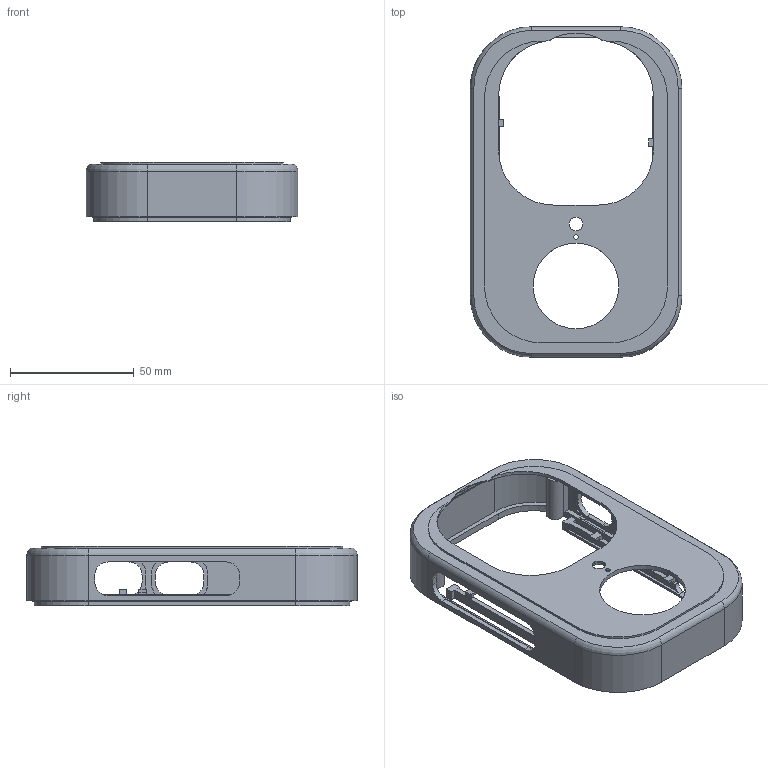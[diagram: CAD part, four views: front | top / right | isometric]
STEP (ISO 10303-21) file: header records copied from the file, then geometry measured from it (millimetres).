
FILE_DESCRIPTION(('Open CASCADE Model'),'2;1');
FILE_NAME('Open CASCADE Shape Model','2026-09-06T11:28:27',('Author'),( 'Open CASCADE'),'Open CASCADE STEP processor 7.7','Open CASCADE 7.7' ,'Unknown');
FILE_SCHEMA(('AUTOMOTIVE_DESIGN { 1 0 10303 214 1 1 1 1 }'));
Length unit declared in the file: millimetre
Products named in the file (1): Open CASCADE STEP translator 7.7 1
Bounding box: 85.6 x 133.6 x 24.2 mm (x, y, z)
Volume: 31747.6 mm3; surface area: 34064.9 mm2
Topology: 1 solids, 3 shells, 309 faces, 879 edges, 578 vertices
Faces by surface type: plane 194, cylinder 99, torus 16
Full cylindrical faces by diameter (mm): 1.8 x1, 5.4 x1, 34.6 x1
Entity records: 22138 total; most frequent: CARTESIAN_POINT 4666, DIRECTION 3283, LINE 1992, VECTOR 1992, ORIENTED_EDGE 1758, PCURVE 1758, DEFINITIONAL_REPRESENTATION 1758, EDGE_CURVE 879
